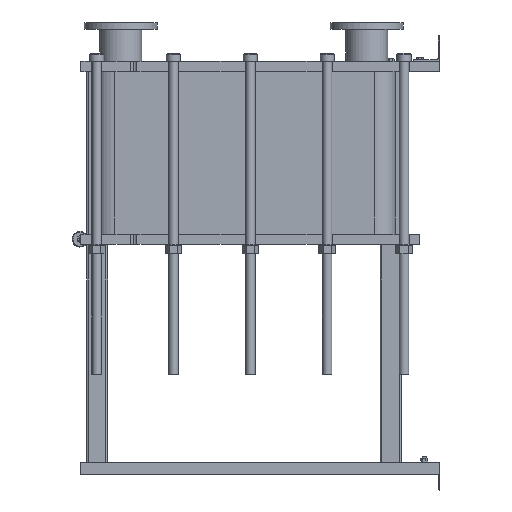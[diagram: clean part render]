
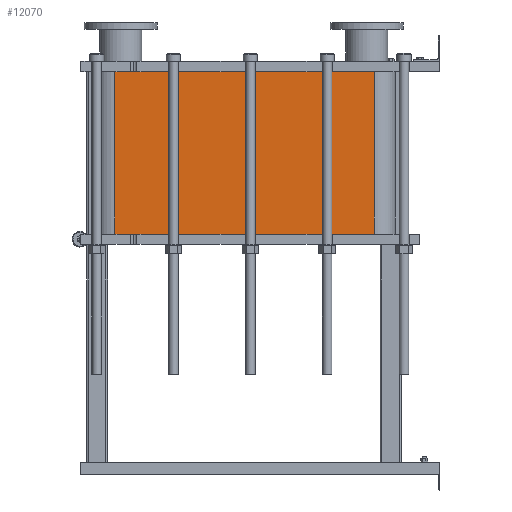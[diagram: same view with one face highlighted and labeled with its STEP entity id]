
A CAD part, left-side view. The second image highlights one B-rep face of the part: STEP entity #12070.
In plain terms, the highlighted planar face has unit normal (-1, 0, 0).
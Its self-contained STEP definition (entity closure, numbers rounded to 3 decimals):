
#1064=LINE('',#21140,#2164);
#1065=LINE('',#21144,#2165);
#1066=LINE('',#21146,#2166);
#1067=LINE('',#21147,#2167);
#2164=VECTOR('',#15790,10.);
#2165=VECTOR('',#15795,10.);
#2166=VECTOR('',#15796,10.);
#2167=VECTOR('',#15797,10.);
#3304=FACE_OUTER_BOUND('',#4091,.T.);
#4091=EDGE_LOOP('',(#9793,#9794,#9795,#9796));
#5677=VERTEX_POINT('',#21137);
#5678=VERTEX_POINT('',#21139);
#5679=VERTEX_POINT('',#21143);
#5680=VERTEX_POINT('',#21145);
#7118=EDGE_CURVE('',#5678,#5677,#1064,.T.);
#7120=EDGE_CURVE('',#5677,#5679,#1065,.T.);
#7121=EDGE_CURVE('',#5680,#5679,#1066,.T.);
#7122=EDGE_CURVE('',#5680,#5678,#1067,.T.);
#9793=ORIENTED_EDGE('',*,*,#7120,.T.);
#9794=ORIENTED_EDGE('',*,*,#7121,.F.);
#9795=ORIENTED_EDGE('',*,*,#7122,.T.);
#9796=ORIENTED_EDGE('',*,*,#7118,.T.);
#11441=PLANE('',#13191);
#12070=ADVANCED_FACE('',(#3304),#11441,.T.);
#13191=AXIS2_PLACEMENT_3D('',#21142,#15793,#15794);
#15790=DIRECTION('',(0.,0.,-1.));
#15793=DIRECTION('center_axis',(-1.,0.,0.));
#15794=DIRECTION('ref_axis',(0.,1.,0.));
#15795=DIRECTION('',(0.,-1.,0.));
#15796=DIRECTION('',(0.,0.,-1.));
#15797=DIRECTION('',(0.,1.,0.));
#21137=CARTESIAN_POINT('',(-248.152,1243.818,-621.));
#21139=CARTESIAN_POINT('',(-248.152,1243.818,0.));
#21140=CARTESIAN_POINT('',(-248.152,1243.818,0.));
#21142=CARTESIAN_POINT('Origin',(-248.152,251.818,0.));
#21143=CARTESIAN_POINT('',(-248.152,251.818,-621.));
#21144=CARTESIAN_POINT('',(-248.152,499.818,-621.));
#21145=CARTESIAN_POINT('',(-248.152,251.818,0.));
#21146=CARTESIAN_POINT('',(-248.152,251.818,0.));
#21147=CARTESIAN_POINT('',(-248.152,251.818,0.));
